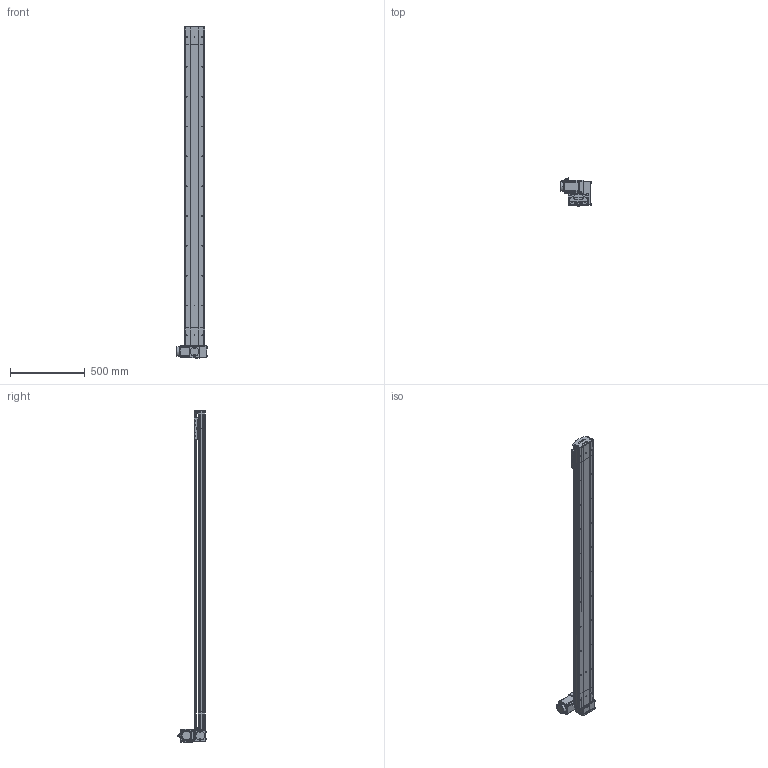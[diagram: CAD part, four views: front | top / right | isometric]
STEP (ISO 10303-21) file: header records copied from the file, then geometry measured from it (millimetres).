
FILE_DESCRIPTION (( 'STEP AP214' ), '1' );
FILE_NAME ('D14 TBH LT S1900.STEP', '2010-06-29T14:13:29', ( 'Conseil Régional Haute-Normandie' ), ( 'Conseil Régional Haute-Normandie' ), 'SwSTEP 2.0', 'SolidWorks 2010', '' );
FILE_SCHEMA (( 'AUTOMOTIVE_DESIGN' ));
Length unit declared in the file: millimetre
Products named in the file (39): D14 couroie L1900_Default; plaque de  bout tail D14_Default; D14 TBH LT S1900; corpl 1900_Default; Tail D14B_Default; corpl tail D14_Default; couvercle D14 course L1900_Default; Rail + couroie D14 Course 1900 ; Arbre+rail tail D14; vis M5 L16_Default; Couroie_Default; tete d''axe haut D14; poulie tail_Default; couvercle D14_Default; D14 TB H LT_Default; vis M5 L8 90°_Default; plaque de  bout head D14 LT_Default; corp head D14_Default; Arbre+rail head D14; couvercle D14 head_Default; poulie head_Default; couroie 2_Default; avant 90BLDC100A-640; Moteur motionking 90BLDC100A-640; corps 90BLDC100A-640; Chariot D14; Conecteur2_Default; Plaque racord D14_Default; Cache_Default; Conecteur_Default; Cache arbre_Default; codeur 90BLDC100-640; vis M5 L12_Default; renvoi LH_Default; guide D14; Vis M5 L16-2_Default; vis M5 L5_Default; chariot D14B_Default; Cvis M5 L70_Default
Assembly tree (68 placements, depth 4):
  D14 TBH LT S1900
    chariot D14B_Default
      guide D14  x2
      vis M5 L12_Default  x4
      Chariot D14
    D14 TB H LT_Default
      Arbre+rail head D14
      couroie 2_Default
      vis M5 L12_Default  x12
      Cvis M5 L70_Default  x4
      Vis M5 L16-2_Default  x4
      vis M5 L5_Default  x2
      Cache arbre_Default
      Cache_Default  x2
      corp head D14_Default
      Moteur motionking 90BLDC100A-640
        Conecteur_Default
        corps 90BLDC100A-640
        codeur 90BLDC100-640
        avant 90BLDC100A-640
        Conecteur2_Default
      Plaque racord D14_Default
      poulie head_Default
      plaque de  bout head D14 LT_Default
      couvercle D14 head_Default
      renvoi LH_Default
    Tail D14B_Default
      tete d''axe haut D14
      Arbre+rail tail D14
      vis M5 L12_Default  x4
      poulie tail_Default
      vis M5 L16_Default  x2
      plaque de  bout tail D14_Default
      vis M5 L8 90°_Default  x2
      corpl tail D14_Default
      Couroie_Default
      couvercle D14_Default
    D14 couroie L1900_Default
      Rail + couroie D14 Course 1900 
      couvercle D14 course L1900_Default
      corpl 1900_Default
Bounding box: 207.2 x 189.1 x 2225.75 mm (x, y, z)
Volume: 8822675.5 mm3; surface area: 3082049.6 mm2
Topology: 92 solids, 92 shells, 2677 faces, 6539 edges, 4218 vertices
Faces by surface type: plane 1601, cylinder 763, bspline 136, torus 89, cone 84, sphere 4
Entity records: 80576 total; most frequent: CARTESIAN_POINT 23773, ORIENTED_EDGE 9938, DIRECTION 9772, EDGE_CURVE 4969, LINE 3310, VECTOR 3310, VERTEX_POINT 3268, AXIS2_PLACEMENT_3D 3231
